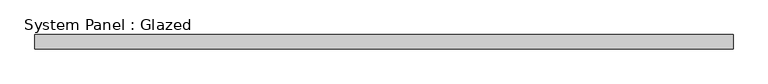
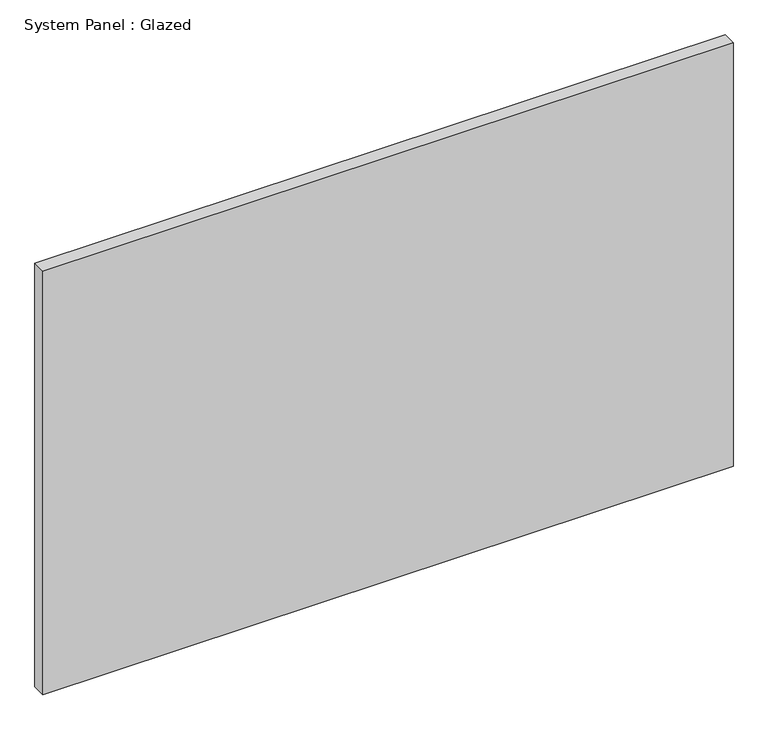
"""IFC4 building model written with IfcOpenShell, lengths in millimetres: plate geometry, System Panel : Glazed."""

from ifc_helpers import new_model, si_unit, origin, origin_with_axes, place, context, project, spatial, polyline, outline, extrude, source, transform, mapped, element, save


def system_panel_glazed_b719fd4d(model_context):
    return source(origin(), model_context, "Body", "SweptSolid", [
        extrude(outline(polyline([(628.3695429, 19.05), (-628.3695429, 19.05), (-628.3695429, 44.45), (628.3695429, 44.45), (628.3695429, 19.05)])), origin_with_axes(), (0.0, 0.0, 1.0), 814.714222),
    ])


if __name__ == "__main__":
    model = new_model("IFC4")
    model_context = context("Model", 3, world=origin())
    ifc_project = project(units=[si_unit("LENGTHUNIT", "METRE", prefix="MILLI")], contexts=[model_context])
    site = spatial("IfcSite", under=ifc_project)
    building = spatial("IfcBuilding", under=site)
    placement = place(None, origin())
    system_panel_glazed_shape = system_panel_glazed_b719fd4d(model_context)
    element("IfcPlate", 1, ObjectType="System Panel : Glazed", at=placement, inside=building, context=model_context, shape_type="MappedRepresentation", body=[
        mapped(system_panel_glazed_shape, transform((0.0, 0.0, 0.0), x_axis=(1.0, 0.0, 0.0), y_axis=(0.0, 1.0, 0.0), z_axis=(0.0, 0.0, 1.0))),
    ])
    save(model, "model.ifc")
